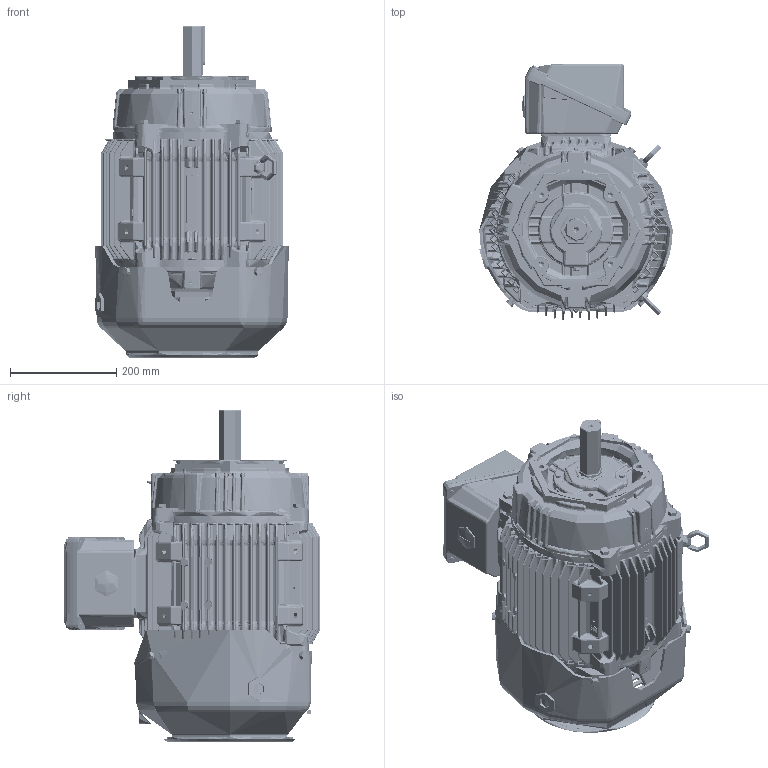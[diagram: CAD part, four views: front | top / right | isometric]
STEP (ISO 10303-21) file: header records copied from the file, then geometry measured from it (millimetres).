
FILE_DESCRIPTION (( 'STEP AP203' ), '1' );
FILE_NAME ('SS621009-100_RevD.STEP', '2022-07-11T13:05:59', ( '' ), ( '' ), 'SwSTEP 2.0', 'SolidWorks 2021', '' );
FILE_SCHEMA (( 'CONFIG_CONTROL_DESIGN' ));
Length unit declared in the file: inch
Products named in the file (1): SS621009-100_RevD
Bounding box: 365.11 x 483.69 x 626.3 mm (x, y, z)
Topology: 0 solids, 904 shells, 13831 faces, 35498 edges, 20452 vertices
Faces by surface type: cylinder 3838, sphere 3069, bspline 2559, plane 1620, torus 1516, cone 1229
Full cylindrical faces by diameter (mm): 4 x21, 6 x3, 10 x32
Entity records: 476069 total; most frequent: CARTESIAN_POINT 189982, DIRECTION 61080, ORIENTED_EDGE 59913, EDGE_CURVE 30023, AXIS2_PLACEMENT_3D 26764, VERTEX_POINT 17650, CIRCLE 15491, EDGE_LOOP 14255
